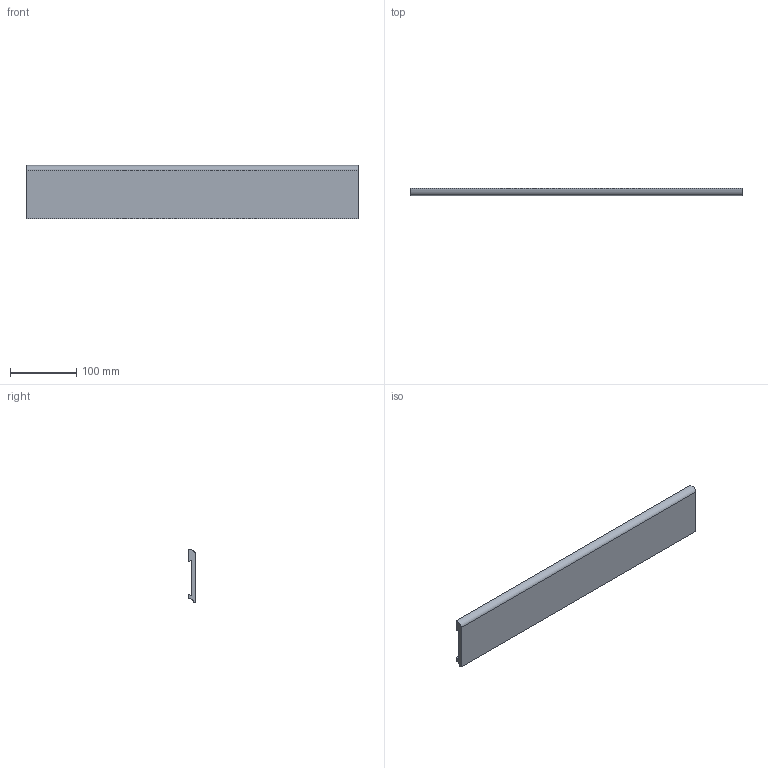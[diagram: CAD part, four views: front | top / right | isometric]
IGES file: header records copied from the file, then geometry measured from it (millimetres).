
Global section: file name: C:\Users\Wicad\Desktop\mardom listwy do wys; native system: Rhinoceros ( Mar  9 2011 ); preprocessor: Trout Lake IGES 012 Mar  9 2011; date: 120525.095814; units: centimetre
Bounding box: 500 x 10.84 x 80 mm (x, y, z)
Surface area: 96049.4 mm2 (no closed solid volume)
Topology: 0 solids, 0 shells, 11 faces, 54 edges, 54 vertices
Faces by surface type: bspline 9, plane 2
